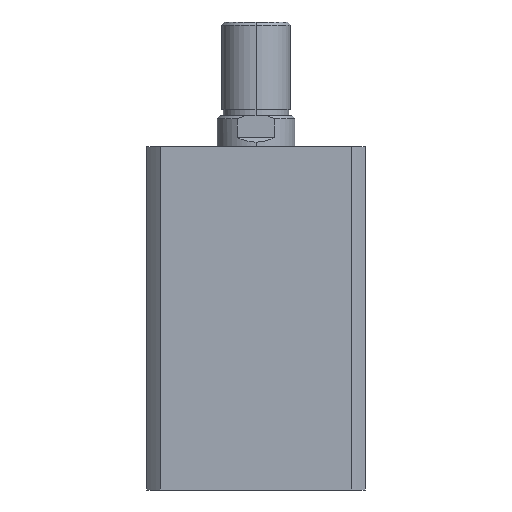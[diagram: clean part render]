
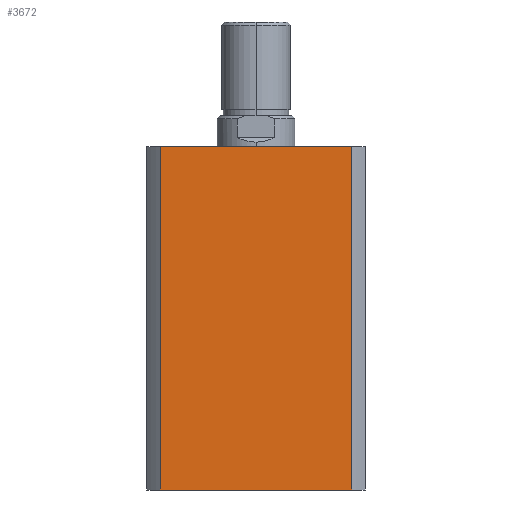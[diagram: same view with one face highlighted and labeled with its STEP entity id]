
A CAD part, left-side view. The second image highlights one B-rep face of the part: STEP entity #3672.
In plain terms, the highlighted planar face has unit normal (-1, 0, 0).
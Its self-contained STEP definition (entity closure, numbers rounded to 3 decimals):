
#122 = FACE_OUTER_BOUND ( 'NONE', #2437, .T. ) ;
#1116 = DIRECTION ( 'NONE',  ( 0., 0., -1. ) ) ;
#1119 = CARTESIAN_POINT ( 'NONE',  ( -35., 30.615, 110. ) ) ;
#1120 = CARTESIAN_POINT ( 'NONE',  ( -35., -30.615, 110. ) ) ;
#1124 = CARTESIAN_POINT ( 'NONE',  ( -35., 0., 0. ) ) ;
#1126 = DIRECTION ( 'NONE',  ( 0., -1., 0. ) ) ;
#1127 = DIRECTION ( 'NONE',  ( 0., 0., -1. ) ) ;
#1274 = DIRECTION ( 'NONE',  ( 0., -1., 0. ) ) ;
#1275 = CARTESIAN_POINT ( 'NONE',  ( -35., 0., 110. ) ) ;
#1542 = AXIS2_PLACEMENT_3D ( 'NONE', #3073, #3081, #3082 ) ;
#2119 = EDGE_CURVE ( 'NONE', #5072, #5052, #2747, .T. ) ;
#2120 = EDGE_CURVE ( 'NONE', #5053, #5052, #2752, .T. ) ;
#2121 = EDGE_CURVE ( 'NONE', #5073, #5053, #2751, .T. ) ;
#2154 = EDGE_CURVE ( 'NONE', #5073, #5072, #2797, .T. ) ;
#2437 = EDGE_LOOP ( 'NONE', ( #4755, #4754, #4753, #4752 ) ) ;
#2747 = LINE ( 'NONE', #1120, #2753 ) ;
#2751 = LINE ( 'NONE', #1119, #2757 ) ;
#2752 = LINE ( 'NONE', #1124, #2755 ) ;
#2753 = VECTOR ( 'NONE', #1116, 1000. ) ;
#2755 = VECTOR ( 'NONE', #1126, 1000. ) ;
#2757 = VECTOR ( 'NONE', #1127, 1000. ) ;
#2797 = LINE ( 'NONE', #1275, #2799 ) ;
#2799 = VECTOR ( 'NONE', #1274, 1000. ) ;
#3073 = CARTESIAN_POINT ( 'NONE',  ( -35., 0., 110. ) ) ;
#3078 = PLANE ( 'NONE',  #1542 ) ;
#3081 = DIRECTION ( 'NONE',  ( 1., 0., 0. ) ) ;
#3082 = DIRECTION ( 'NONE',  ( 0., 1., 0. ) ) ;
#3565 = CARTESIAN_POINT ( 'NONE',  ( -35., -30.615, 0. ) ) ;
#3566 = CARTESIAN_POINT ( 'NONE',  ( -35., 30.615, 0. ) ) ;
#3585 = CARTESIAN_POINT ( 'NONE',  ( -35., -30.615, 110. ) ) ;
#3586 = CARTESIAN_POINT ( 'NONE',  ( -35., 30.615, 110. ) ) ;
#3672 = ADVANCED_FACE ( 'NONE', ( #122 ), #3078, .F. ) ;
#4752 = ORIENTED_EDGE ( 'NONE', *, *, #2121, .T. ) ;
#4753 = ORIENTED_EDGE ( 'NONE', *, *, #2154, .F. ) ;
#4754 = ORIENTED_EDGE ( 'NONE', *, *, #2119, .F. ) ;
#4755 = ORIENTED_EDGE ( 'NONE', *, *, #2120, .T. ) ;
#5052 = VERTEX_POINT ( 'NONE', #3565 ) ;
#5053 = VERTEX_POINT ( 'NONE', #3566 ) ;
#5072 = VERTEX_POINT ( 'NONE', #3585 ) ;
#5073 = VERTEX_POINT ( 'NONE', #3586 ) ;
